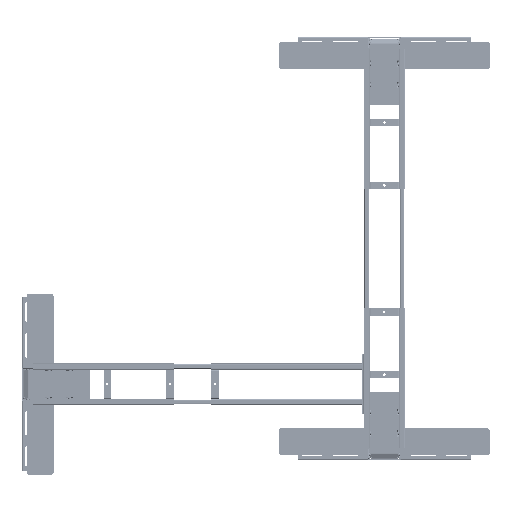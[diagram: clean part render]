
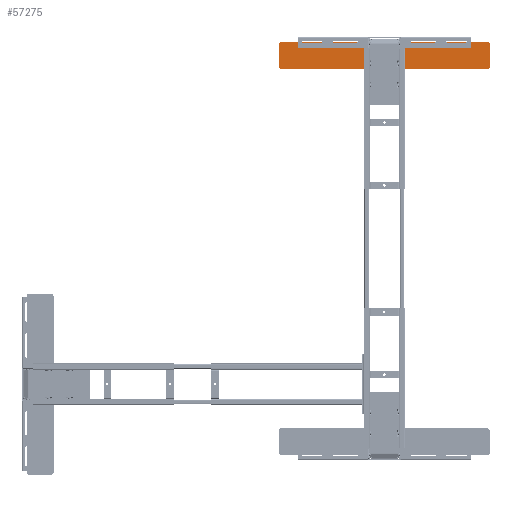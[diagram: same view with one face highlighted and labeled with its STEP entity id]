
A CAD part, left-side view. The second image highlights one B-rep face of the part: STEP entity #57275.
In plain terms, the highlighted planar face has unit normal (-1, 0, 0) as drawn and (0, 1, 0) by its records, which use the part's own axes.
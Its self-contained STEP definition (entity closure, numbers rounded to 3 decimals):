
#55112=DIRECTION('',(0.,0.,1.));
#55113=VECTOR('',#55112,70.);
#55114=CARTESIAN_POINT('',(-350.,3.,-35.));
#55115=LINE('',#55114,#55113);
#55124=DIRECTION('',(-1.,0.,0.));
#55125=VECTOR('',#55124,680.);
#55126=CARTESIAN_POINT('',(340.,3.,-45.));
#55127=LINE('',#55126,#55125);
#55136=DIRECTION('',(0.,0.,-1.));
#55137=VECTOR('',#55136,70.);
#55138=CARTESIAN_POINT('',(350.,3.,35.));
#55139=LINE('',#55138,#55137);
#55148=DIRECTION('',(1.,0.,0.));
#55149=VECTOR('',#55148,680.);
#55150=CARTESIAN_POINT('',(-340.,3.,45.));
#55151=LINE('',#55150,#55149);
#55152=CARTESIAN_POINT('',(-340.,3.,35.));
#55153=DIRECTION('',(0.,-1.,0.));
#55154=DIRECTION('',(0.,0.,1.));
#55155=AXIS2_PLACEMENT_3D('',#55152,#55153,#55154);
#55157=CARTESIAN_POINT('',(-340.,3.,-35.));
#55158=DIRECTION('',(0.,-1.,0.));
#55159=DIRECTION('',(-1.,0.,0.));
#55160=AXIS2_PLACEMENT_3D('',#55157,#55158,#55159);
#55162=CARTESIAN_POINT('',(340.,3.,-35.));
#55163=DIRECTION('',(0.,-1.,0.));
#55164=DIRECTION('',(0.,0.,-1.));
#55165=AXIS2_PLACEMENT_3D('',#55162,#55163,#55164);
#55167=CARTESIAN_POINT('',(340.,3.,35.));
#55168=DIRECTION('',(0.,-1.,0.));
#55169=DIRECTION('',(1.,0.,0.));
#55170=AXIS2_PLACEMENT_3D('',#55167,#55168,#55169);
#55172=CARTESIAN_POINT('',(22.5,3.,22.5));
#55173=DIRECTION('',(0.,1.,0.));
#55174=DIRECTION('',(-1.,0.,0.));
#55175=AXIS2_PLACEMENT_3D('',#55172,#55173,#55174);
#55177=CARTESIAN_POINT('',(22.5,3.,22.5));
#55178=DIRECTION('',(0.,1.,0.));
#55179=DIRECTION('',(1.,0.,0.));
#55180=AXIS2_PLACEMENT_3D('',#55177,#55178,#55179);
#55182=CARTESIAN_POINT('',(-22.5,3.,-22.5));
#55183=DIRECTION('',(0.,1.,0.));
#55184=DIRECTION('',(-1.,0.,0.));
#55185=AXIS2_PLACEMENT_3D('',#55182,#55183,#55184);
#55187=CARTESIAN_POINT('',(-22.5,3.,-22.5));
#55188=DIRECTION('',(0.,1.,0.));
#55189=DIRECTION('',(1.,0.,0.));
#55190=AXIS2_PLACEMENT_3D('',#55187,#55188,#55189);
#55192=CARTESIAN_POINT('',(22.5,3.,-22.5));
#55193=DIRECTION('',(0.,1.,0.));
#55194=DIRECTION('',(-1.,0.,0.));
#55195=AXIS2_PLACEMENT_3D('',#55192,#55193,#55194);
#55197=CARTESIAN_POINT('',(22.5,3.,-22.5));
#55198=DIRECTION('',(0.,1.,0.));
#55199=DIRECTION('',(1.,0.,0.));
#55200=AXIS2_PLACEMENT_3D('',#55197,#55198,#55199);
#55202=CARTESIAN_POINT('',(-22.5,3.,22.5));
#55203=DIRECTION('',(0.,1.,0.));
#55204=DIRECTION('',(-1.,0.,0.));
#55205=AXIS2_PLACEMENT_3D('',#55202,#55203,#55204);
#55207=CARTESIAN_POINT('',(-22.5,3.,22.5));
#55208=DIRECTION('',(0.,1.,0.));
#55209=DIRECTION('',(1.,0.,0.));
#55210=AXIS2_PLACEMENT_3D('',#55207,#55208,#55209);
#56572=CARTESIAN_POINT('',(-350.,3.,35.));
#56573=VERTEX_POINT('',#56572);
#56574=CARTESIAN_POINT('',(-340.,3.,45.));
#56575=VERTEX_POINT('',#56574);
#56576=CARTESIAN_POINT('',(-350.,3.,-35.));
#56577=VERTEX_POINT('',#56576);
#56578=CARTESIAN_POINT('',(-340.,3.,-45.));
#56579=VERTEX_POINT('',#56578);
#56580=CARTESIAN_POINT('',(340.,3.,-45.));
#56581=VERTEX_POINT('',#56580);
#56582=CARTESIAN_POINT('',(350.,3.,-35.));
#56583=VERTEX_POINT('',#56582);
#56584=CARTESIAN_POINT('',(350.,3.,35.));
#56585=VERTEX_POINT('',#56584);
#56586=CARTESIAN_POINT('',(340.,3.,45.));
#56587=VERTEX_POINT('',#56586);
#56588=CARTESIAN_POINT('',(19.25,3.,22.5));
#56589=CARTESIAN_POINT('',(25.75,3.,22.5));
#56590=VERTEX_POINT('',#56588);
#56591=VERTEX_POINT('',#56589);
#56592=CARTESIAN_POINT('',(-25.75,3.,-22.5));
#56593=CARTESIAN_POINT('',(-19.25,3.,-22.5));
#56594=VERTEX_POINT('',#56592);
#56595=VERTEX_POINT('',#56593);
#56596=CARTESIAN_POINT('',(19.25,3.,-22.5));
#56597=CARTESIAN_POINT('',(25.75,3.,-22.5));
#56598=VERTEX_POINT('',#56596);
#56599=VERTEX_POINT('',#56597);
#56600=CARTESIAN_POINT('',(-25.75,3.,22.5));
#56601=CARTESIAN_POINT('',(-19.25,3.,22.5));
#56602=VERTEX_POINT('',#56600);
#56603=VERTEX_POINT('',#56601);
#57236=CARTESIAN_POINT('',(0.,3.,0.));
#57237=DIRECTION('',(0.,1.,0.));
#57238=DIRECTION('',(1.,0.,0.));
#57239=AXIS2_PLACEMENT_3D('',#57236,#57237,#57238);
#57240=PLANE('',#57239);
#57241=ORIENTED_EDGE('',*,*,#57132,.T.);
#57242=ORIENTED_EDGE('',*,*,#57148,.F.);
#57243=ORIENTED_EDGE('',*,*,#57161,.T.);
#57244=ORIENTED_EDGE('',*,*,#57176,.F.);
#57245=ORIENTED_EDGE('',*,*,#57189,.T.);
#57246=ORIENTED_EDGE('',*,*,#57202,.F.);
#57247=ORIENTED_EDGE('',*,*,#57217,.T.);
#57248=ORIENTED_EDGE('',*,*,#57229,.F.);
#57249=EDGE_LOOP('',(#57241,#57242,#57243,#57244,#57245,#57246,#57247,#57248));
#57250=FACE_OUTER_BOUND('',#57249,.F.);
#57252=ORIENTED_EDGE('',*,*,#57251,.T.);
#57254=ORIENTED_EDGE('',*,*,#57253,.T.);
#57255=EDGE_LOOP('',(#57252,#57254));
#57256=FACE_BOUND('',#57255,.F.);
#57258=ORIENTED_EDGE('',*,*,#57257,.T.);
#57260=ORIENTED_EDGE('',*,*,#57259,.T.);
#57261=EDGE_LOOP('',(#57258,#57260));
#57262=FACE_BOUND('',#57261,.F.);
#57264=ORIENTED_EDGE('',*,*,#57263,.T.);
#57266=ORIENTED_EDGE('',*,*,#57265,.T.);
#57267=EDGE_LOOP('',(#57264,#57266));
#57268=FACE_BOUND('',#57267,.F.);
#57270=ORIENTED_EDGE('',*,*,#57269,.T.);
#57272=ORIENTED_EDGE('',*,*,#57271,.T.);
#57273=EDGE_LOOP('',(#57270,#57272));
#57274=FACE_BOUND('',#57273,.F.);
#57275=ADVANCED_FACE('',(#57250,#57256,#57262,#57268,#57274),#57240,.T.);
#55156=CIRCLE('',#55155,10.);
#55161=CIRCLE('',#55160,10.);
#55166=CIRCLE('',#55165,10.);
#55171=CIRCLE('',#55170,10.);
#55176=CIRCLE('',#55175,3.25);
#55181=CIRCLE('',#55180,3.25);
#55186=CIRCLE('',#55185,3.25);
#55191=CIRCLE('',#55190,3.25);
#55196=CIRCLE('',#55195,3.25);
#55201=CIRCLE('',#55200,3.25);
#55206=CIRCLE('',#55205,3.25);
#55211=CIRCLE('',#55210,3.25);
#57132=EDGE_CURVE('',#56575,#56573,#55156,.T.);
#57148=EDGE_CURVE('',#56577,#56573,#55115,.T.);
#57161=EDGE_CURVE('',#56577,#56579,#55161,.T.);
#57176=EDGE_CURVE('',#56581,#56579,#55127,.T.);
#57189=EDGE_CURVE('',#56581,#56583,#55166,.T.);
#57202=EDGE_CURVE('',#56585,#56583,#55139,.T.);
#57217=EDGE_CURVE('',#56585,#56587,#55171,.T.);
#57229=EDGE_CURVE('',#56575,#56587,#55151,.T.);
#57251=EDGE_CURVE('',#56590,#56591,#55176,.T.);
#57253=EDGE_CURVE('',#56591,#56590,#55181,.T.);
#57257=EDGE_CURVE('',#56594,#56595,#55186,.T.);
#57259=EDGE_CURVE('',#56595,#56594,#55191,.T.);
#57263=EDGE_CURVE('',#56598,#56599,#55196,.T.);
#57265=EDGE_CURVE('',#56599,#56598,#55201,.T.);
#57269=EDGE_CURVE('',#56602,#56603,#55206,.T.);
#57271=EDGE_CURVE('',#56603,#56602,#55211,.T.);
